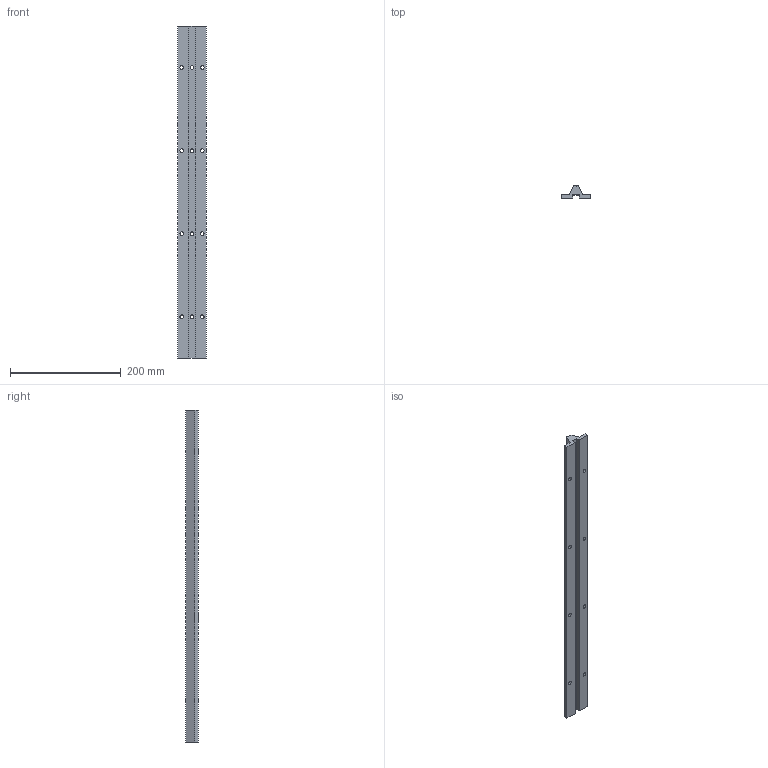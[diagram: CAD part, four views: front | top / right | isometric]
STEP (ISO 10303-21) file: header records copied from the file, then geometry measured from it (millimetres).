
FILE_DESCRIPTION (( 'STEP AP203' ), '1' );
FILE_NAME ('KWU50-20 T1-T2.step', '2020-03-23T07:54:49', ( '' ), ( '' ), 'SwSTEP 2.0', 'SolidWorks 2019', '' );
FILE_SCHEMA (( 'CONFIG_CONTROL_DESIGN' ));
Length unit declared in the file: millimetre
Products named in the file (2): KWU50-20 T1-T2
Bounding box: 52 x 22.82 x 599.5 mm (x, y, z)
Volume: 299513.2 mm3; surface area: 92900.6 mm2
Topology: 1 solids, 1 shells, 39 faces, 115 edges, 74 vertices
Faces by surface type: cylinder 24, plane 15
Entity records: 1508 total; most frequent: CARTESIAN_POINT 254, ORIENTED_EDGE 230, DIRECTION 229, EDGE_CURVE 115, AXIS2_PLACEMENT_3D 81, VERTEX_POINT 74, VECTOR 67, LINE 67
